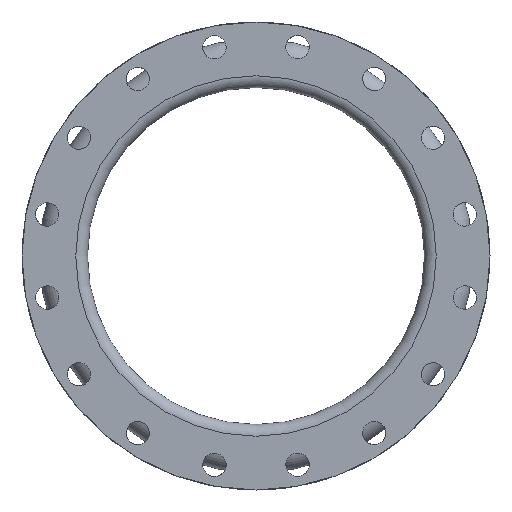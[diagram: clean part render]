
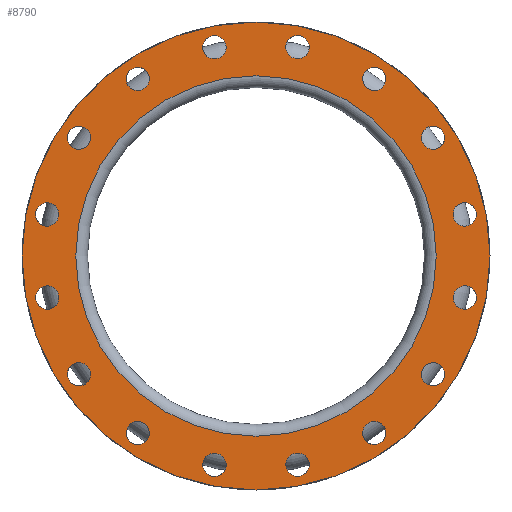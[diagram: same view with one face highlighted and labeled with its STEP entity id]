
A CAD part, left-side view. The second image highlights one B-rep face of the part: STEP entity #8790.
In plain terms, the highlighted planar face has unit normal (-1, 0, 0).
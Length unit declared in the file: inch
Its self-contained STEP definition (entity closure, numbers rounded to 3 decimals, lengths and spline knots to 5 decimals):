
#133=FACE_BOUND('',#1453,.T.);
#134=FACE_BOUND('',#1454,.T.);
#135=FACE_BOUND('',#1455,.T.);
#136=FACE_BOUND('',#1456,.T.);
#137=FACE_BOUND('',#1457,.T.);
#138=FACE_BOUND('',#1458,.T.);
#139=FACE_BOUND('',#1459,.T.);
#140=FACE_BOUND('',#1460,.T.);
#141=FACE_BOUND('',#1461,.T.);
#142=FACE_BOUND('',#1462,.T.);
#143=FACE_BOUND('',#1463,.T.);
#144=FACE_BOUND('',#1464,.T.);
#145=FACE_BOUND('',#1465,.T.);
#146=FACE_BOUND('',#1466,.T.);
#147=FACE_BOUND('',#1467,.T.);
#148=FACE_BOUND('',#1468,.T.);
#149=FACE_BOUND('',#1469,.T.);
#873=FACE_OUTER_BOUND('',#1452,.T.);
#1452=EDGE_LOOP('',(#6734));
#1453=EDGE_LOOP('',(#6735));
#1454=EDGE_LOOP('',(#6736));
#1455=EDGE_LOOP('',(#6737));
#1456=EDGE_LOOP('',(#6738));
#1457=EDGE_LOOP('',(#6739));
#1458=EDGE_LOOP('',(#6740));
#1459=EDGE_LOOP('',(#6741));
#1460=EDGE_LOOP('',(#6742));
#1461=EDGE_LOOP('',(#6743));
#1462=EDGE_LOOP('',(#6744));
#1463=EDGE_LOOP('',(#6745));
#1464=EDGE_LOOP('',(#6746));
#1465=EDGE_LOOP('',(#6747));
#1466=EDGE_LOOP('',(#6748));
#1467=EDGE_LOOP('',(#6749));
#1468=EDGE_LOOP('',(#6750));
#1469=EDGE_LOOP('',(#6751));
#3087=CIRCLE('',#9615,0.625);
#3089=CIRCLE('',#9618,0.625);
#3091=CIRCLE('',#9621,0.625);
#3093=CIRCLE('',#9624,0.625);
#3095=CIRCLE('',#9627,0.625);
#3097=CIRCLE('',#9630,0.625);
#3099=CIRCLE('',#9633,0.625);
#3101=CIRCLE('',#9636,0.625);
#3103=CIRCLE('',#9639,0.625);
#3105=CIRCLE('',#9642,0.625);
#3107=CIRCLE('',#9645,0.625);
#3109=CIRCLE('',#9648,0.625);
#3111=CIRCLE('',#9651,0.625);
#3113=CIRCLE('',#9654,0.625);
#3115=CIRCLE('',#9657,0.625);
#3117=CIRCLE('',#9660,0.625);
#3125=CIRCLE('',#9675,9.625);
#3126=CIRCLE('',#9677,12.5);
#3893=VERTEX_POINT('',#14403);
#3895=VERTEX_POINT('',#14408);
#3897=VERTEX_POINT('',#14413);
#3899=VERTEX_POINT('',#14418);
#3901=VERTEX_POINT('',#14423);
#3903=VERTEX_POINT('',#14428);
#3905=VERTEX_POINT('',#14433);
#3907=VERTEX_POINT('',#14438);
#3909=VERTEX_POINT('',#14443);
#3911=VERTEX_POINT('',#14448);
#3913=VERTEX_POINT('',#14453);
#3915=VERTEX_POINT('',#14458);
#3917=VERTEX_POINT('',#14463);
#3919=VERTEX_POINT('',#14468);
#3921=VERTEX_POINT('',#14473);
#3923=VERTEX_POINT('',#14478);
#3931=VERTEX_POINT('',#14501);
#3932=VERTEX_POINT('',#14504);
#4923=EDGE_CURVE('',#3893,#3893,#3087,.T.);
#4925=EDGE_CURVE('',#3895,#3895,#3089,.T.);
#4927=EDGE_CURVE('',#3897,#3897,#3091,.T.);
#4929=EDGE_CURVE('',#3899,#3899,#3093,.T.);
#4931=EDGE_CURVE('',#3901,#3901,#3095,.T.);
#4933=EDGE_CURVE('',#3903,#3903,#3097,.T.);
#4935=EDGE_CURVE('',#3905,#3905,#3099,.T.);
#4937=EDGE_CURVE('',#3907,#3907,#3101,.T.);
#4939=EDGE_CURVE('',#3909,#3909,#3103,.T.);
#4941=EDGE_CURVE('',#3911,#3911,#3105,.T.);
#4943=EDGE_CURVE('',#3913,#3913,#3107,.T.);
#4945=EDGE_CURVE('',#3915,#3915,#3109,.T.);
#4947=EDGE_CURVE('',#3917,#3917,#3111,.T.);
#4949=EDGE_CURVE('',#3919,#3919,#3113,.T.);
#4951=EDGE_CURVE('',#3921,#3921,#3115,.T.);
#4953=EDGE_CURVE('',#3923,#3923,#3117,.T.);
#4961=EDGE_CURVE('',#3931,#3931,#3125,.T.);
#4962=EDGE_CURVE('',#3932,#3932,#3126,.T.);
#6734=ORIENTED_EDGE('',*,*,#4962,.F.);
#6735=ORIENTED_EDGE('',*,*,#4961,.T.);
#6736=ORIENTED_EDGE('',*,*,#4923,.T.);
#6737=ORIENTED_EDGE('',*,*,#4925,.T.);
#6738=ORIENTED_EDGE('',*,*,#4927,.T.);
#6739=ORIENTED_EDGE('',*,*,#4929,.T.);
#6740=ORIENTED_EDGE('',*,*,#4931,.T.);
#6741=ORIENTED_EDGE('',*,*,#4933,.T.);
#6742=ORIENTED_EDGE('',*,*,#4935,.T.);
#6743=ORIENTED_EDGE('',*,*,#4937,.T.);
#6744=ORIENTED_EDGE('',*,*,#4939,.T.);
#6745=ORIENTED_EDGE('',*,*,#4941,.T.);
#6746=ORIENTED_EDGE('',*,*,#4943,.T.);
#6747=ORIENTED_EDGE('',*,*,#4945,.T.);
#6748=ORIENTED_EDGE('',*,*,#4947,.T.);
#6749=ORIENTED_EDGE('',*,*,#4949,.T.);
#6750=ORIENTED_EDGE('',*,*,#4951,.T.);
#6751=ORIENTED_EDGE('',*,*,#4953,.T.);
#8004=PLANE('',#9676);
#8790=ADVANCED_FACE('',(#873,#133,#134,#135,#136,#137,#138,#139,#140,#141,
#142,#143,#144,#145,#146,#147,#148,#149),#8004,.T.);
#9615=AXIS2_PLACEMENT_3D('',#14404,#11669,#11670);
#9618=AXIS2_PLACEMENT_3D('',#14409,#11675,#11676);
#9621=AXIS2_PLACEMENT_3D('',#14414,#11681,#11682);
#9624=AXIS2_PLACEMENT_3D('',#14419,#11687,#11688);
#9627=AXIS2_PLACEMENT_3D('',#14424,#11693,#11694);
#9630=AXIS2_PLACEMENT_3D('',#14429,#11699,#11700);
#9633=AXIS2_PLACEMENT_3D('',#14434,#11705,#11706);
#9636=AXIS2_PLACEMENT_3D('',#14439,#11711,#11712);
#9639=AXIS2_PLACEMENT_3D('',#14444,#11717,#11718);
#9642=AXIS2_PLACEMENT_3D('',#14449,#11723,#11724);
#9645=AXIS2_PLACEMENT_3D('',#14454,#11729,#11730);
#9648=AXIS2_PLACEMENT_3D('',#14459,#11735,#11736);
#9651=AXIS2_PLACEMENT_3D('',#14464,#11741,#11742);
#9654=AXIS2_PLACEMENT_3D('',#14469,#11747,#11748);
#9657=AXIS2_PLACEMENT_3D('',#14474,#11753,#11754);
#9660=AXIS2_PLACEMENT_3D('',#14479,#11759,#11760);
#9675=AXIS2_PLACEMENT_3D('',#14502,#11789,#11790);
#9676=AXIS2_PLACEMENT_3D('',#14503,#11791,#11792);
#9677=AXIS2_PLACEMENT_3D('',#14505,#11793,#11794);
#11669=DIRECTION('center_axis',(1.,0.,0.));
#11670=DIRECTION('ref_axis',(0.,-0.383,-0.924));
#11675=DIRECTION('center_axis',(1.,0.,0.));
#11676=DIRECTION('ref_axis',(0.,-0.707,-0.707));
#11681=DIRECTION('center_axis',(1.,0.,0.));
#11682=DIRECTION('ref_axis',(0.,-0.924,-0.383));
#11687=DIRECTION('center_axis',(1.,0.,0.));
#11688=DIRECTION('ref_axis',(0.,-1.,0.));
#11693=DIRECTION('center_axis',(1.,0.,0.));
#11694=DIRECTION('ref_axis',(0.,-0.924,0.383));
#11699=DIRECTION('center_axis',(1.,0.,0.));
#11700=DIRECTION('ref_axis',(0.,-0.707,0.707));
#11705=DIRECTION('center_axis',(1.,0.,0.));
#11706=DIRECTION('ref_axis',(0.,-0.383,0.924));
#11711=DIRECTION('center_axis',(1.,0.,0.));
#11712=DIRECTION('ref_axis',(0.,0.,
1.));
#11717=DIRECTION('center_axis',(1.,0.,0.));
#11718=DIRECTION('ref_axis',(0.,0.383,0.924));
#11723=DIRECTION('center_axis',(1.,0.,0.));
#11724=DIRECTION('ref_axis',(0.,0.707,0.707));
#11729=DIRECTION('center_axis',(1.,0.,0.));
#11730=DIRECTION('ref_axis',(0.,0.924,0.383));
#11735=DIRECTION('center_axis',(1.,0.,0.));
#11736=DIRECTION('ref_axis',(0.,1.,0.));
#11741=DIRECTION('center_axis',(1.,0.,0.));
#11742=DIRECTION('ref_axis',(0.,0.924,-0.383));
#11747=DIRECTION('center_axis',(1.,0.,0.));
#11748=DIRECTION('ref_axis',(0.,0.707,-0.707));
#11753=DIRECTION('center_axis',(1.,0.,0.));
#11754=DIRECTION('ref_axis',(0.,0.383,-0.924));
#11759=DIRECTION('center_axis',(1.,0.,0.));
#11760=DIRECTION('ref_axis',(0.,0.,-1.));
#11789=DIRECTION('center_axis',(1.,0.,0.));
#11790=DIRECTION('ref_axis',(0.,0.,-1.));
#11791=DIRECTION('center_axis',(-1.,0.,0.));
#11792=DIRECTION('ref_axis',(0.,0.,1.));
#11793=DIRECTION('center_axis',(1.,0.,0.));
#11794=DIRECTION('ref_axis',(0.,0.,-1.));
#14403=CARTESIAN_POINT('',(-4.,9.69714,-5.74219));
#14404=CARTESIAN_POINT('Origin',(-4.,9.45797,-6.31961));
#14408=CARTESIAN_POINT('',(-4.,6.76155,-9.01603));
#14409=CARTESIAN_POINT('Origin',(-4.,6.31961,-9.45797));
#14413=CARTESIAN_POINT('',(-4.,2.79658,-10.91726));
#14414=CARTESIAN_POINT('Origin',(-4.,2.21915,-11.15643));
#14418=CARTESIAN_POINT('',(-4.,-1.59415,-11.15643));
#14419=CARTESIAN_POINT('Origin',(-4.,-2.21915,-11.15643));
#14423=CARTESIAN_POINT('',(-4.,-5.74219,-9.69714));
#14424=CARTESIAN_POINT('Origin',(-4.,-6.31961,-9.45797));
#14428=CARTESIAN_POINT('',(-4.,-9.01603,-6.76155));
#14429=CARTESIAN_POINT('Origin',(-4.,-9.45797,-6.31961));
#14433=CARTESIAN_POINT('',(-4.,-10.91726,-2.79658));
#14434=CARTESIAN_POINT('Origin',(-4.,-11.15643,-2.21915));
#14438=CARTESIAN_POINT('',(-4.,-11.15643,1.59415));
#14439=CARTESIAN_POINT('Origin',(-4.,-11.15643,2.21915));
#14443=CARTESIAN_POINT('',(-4.,-9.69714,5.74219));
#14444=CARTESIAN_POINT('Origin',(-4.,-9.45797,6.31961));
#14448=CARTESIAN_POINT('',(-4.,-6.76155,9.01603));
#14449=CARTESIAN_POINT('Origin',(-4.,-6.31961,9.45797));
#14453=CARTESIAN_POINT('',(-4.,-2.79658,10.91726));
#14454=CARTESIAN_POINT('Origin',(-4.,-2.21915,11.15643));
#14458=CARTESIAN_POINT('',(-4.,1.59415,11.15643));
#14459=CARTESIAN_POINT('Origin',(-4.,2.21915,11.15643));
#14463=CARTESIAN_POINT('',(-4.,5.74219,9.69714));
#14464=CARTESIAN_POINT('Origin',(-4.,6.31961,9.45797));
#14468=CARTESIAN_POINT('',(-4.,9.01603,6.76155));
#14469=CARTESIAN_POINT('Origin',(-4.,9.45797,6.31961));
#14473=CARTESIAN_POINT('',(-4.,10.91726,2.79658));
#14474=CARTESIAN_POINT('Origin',(-4.,11.15643,2.21915));
#14478=CARTESIAN_POINT('',(-4.,11.15643,-1.59415));
#14479=CARTESIAN_POINT('Origin',(-4.,11.15643,-2.21915));
#14501=CARTESIAN_POINT('',(-4.,9.625,0.));
#14502=CARTESIAN_POINT('Origin',(-4.,0.,0.));
#14503=CARTESIAN_POINT('Origin',(-4.,12.5,0.));
#14504=CARTESIAN_POINT('',(-4.,12.5,0.));
#14505=CARTESIAN_POINT('Origin',(-4.,0.,0.));
